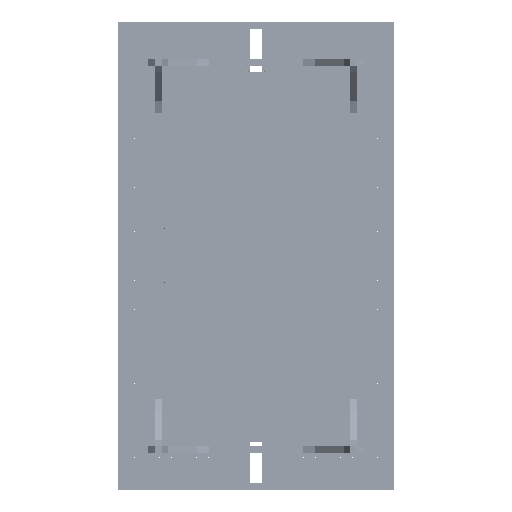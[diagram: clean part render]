
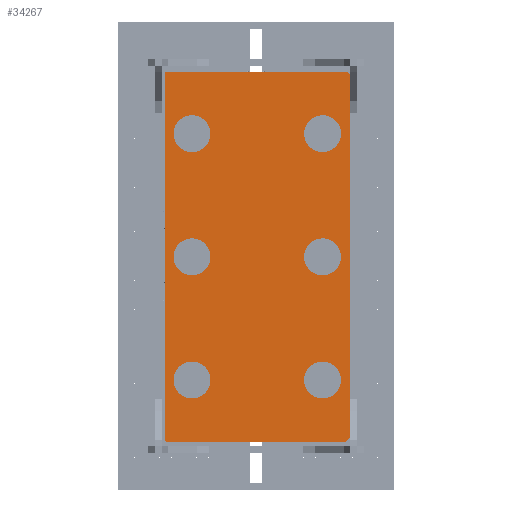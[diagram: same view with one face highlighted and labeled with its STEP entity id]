
A CAD part, front view. The second image highlights one B-rep face of the part: STEP entity #34267.
In plain terms, the highlighted planar face has unit normal (0, -1, 0) as drawn and (0, 0, 1) by its records, which use the part's own axes.
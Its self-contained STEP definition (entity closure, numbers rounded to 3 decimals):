
#4464 = ORIENTED_EDGE ( 'NONE', *, *, #52606, .T. ) ;
#5133 = CARTESIAN_POINT ( 'NONE',  ( 1500., 750., 300. ) ) ;
#6697 = DIRECTION ( 'NONE',  ( 1., 0., 0. ) ) ;
#7707 = CARTESIAN_POINT ( 'NONE',  ( -1500., -750., 300. ) ) ;
#8679 = EDGE_CURVE ( 'NONE', #14955, #41627, #41724, .T. ) ;
#8943 = ORIENTED_EDGE ( 'NONE', *, *, #8679, .T. ) ;
#9240 = EDGE_CURVE ( 'NONE', #16818, #14955, #58357, .T. ) ;
#11635 = VECTOR ( 'NONE', #12142, 1000. ) ;
#12142 = DIRECTION ( 'NONE',  ( 0., -1., 0. ) ) ;
#14955 = VERTEX_POINT ( 'NONE', #65519 ) ;
#15370 = VECTOR ( 'NONE', #61861, 1000. ) ;
#16818 = VERTEX_POINT ( 'NONE', #20904 ) ;
#20083 = CARTESIAN_POINT ( 'NONE',  ( -1500., 750., 300. ) ) ;
#20904 = CARTESIAN_POINT ( 'NONE',  ( -1500., -750., 300. ) ) ;
#27567 = VECTOR ( 'NONE', #6697, 1000. ) ;
#28827 = VERTEX_POINT ( 'NONE', #65674 ) ;
#31951 = LINE ( 'NONE', #20083, #15370 ) ;
#34267 = ADVANCED_FACE ( 'NONE', ( #37983 ), #43400, .F. ) ;
#36625 = CARTESIAN_POINT ( 'NONE',  ( 1500., -750., 300. ) ) ;
#36976 = CARTESIAN_POINT ( 'NONE',  ( -1500., -750., 300. ) ) ;
#37983 = FACE_OUTER_BOUND ( 'NONE', #53713, .T. ) ;
#39897 = DIRECTION ( 'NONE',  ( 0., -1., 0. ) ) ;
#41627 = VERTEX_POINT ( 'NONE', #5133 ) ;
#41724 = LINE ( 'NONE', #36625, #56736 ) ;
#43078 = LINE ( 'NONE', #7707, #11635 ) ;
#43400 = PLANE ( 'NONE',  #64122 ) ;
#43738 = DIRECTION ( 'NONE',  ( 0., 0., -1. ) ) ;
#46158 = ORIENTED_EDGE ( 'NONE', *, *, #9240, .T. ) ;
#47838 = ORIENTED_EDGE ( 'NONE', *, *, #57294, .T. ) ;
#52606 = EDGE_CURVE ( 'NONE', #28827, #16818, #43078, .T. ) ;
#53713 = EDGE_LOOP ( 'NONE', ( #8943, #47838, #4464, #46158 ) ) ;
#56736 = VECTOR ( 'NONE', #57329, 1000. ) ;
#57294 = EDGE_CURVE ( 'NONE', #41627, #28827, #31951, .T. ) ;
#57329 = DIRECTION ( 'NONE',  ( 0., 1., 0. ) ) ;
#58357 = LINE ( 'NONE', #36976, #27567 ) ;
#58697 = CARTESIAN_POINT ( 'NONE',  ( 0., 0., 300. ) ) ;
#61861 = DIRECTION ( 'NONE',  ( -1., 0., 0. ) ) ;
#64122 = AXIS2_PLACEMENT_3D ( 'NONE', #58697, #43738, #39897 ) ;
#65519 = CARTESIAN_POINT ( 'NONE',  ( 1500., -750., 300. ) ) ;
#65674 = CARTESIAN_POINT ( 'NONE',  ( -1500., 750., 300. ) ) ;
